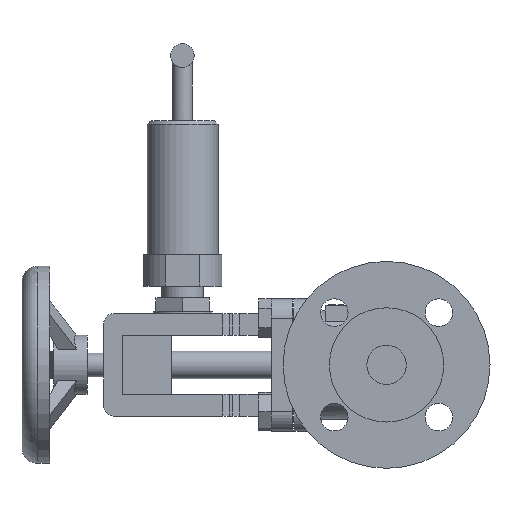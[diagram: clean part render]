
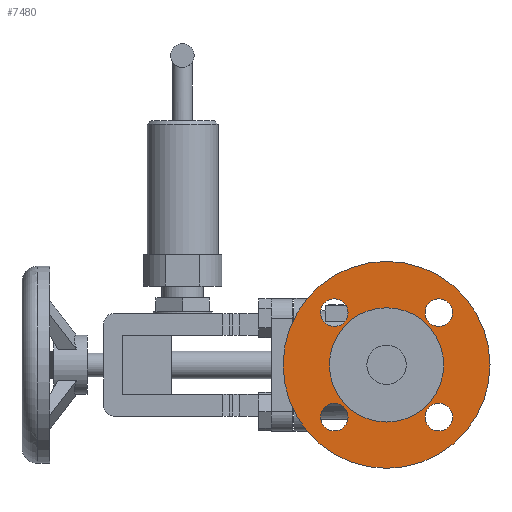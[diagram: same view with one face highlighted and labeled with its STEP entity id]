
A CAD part, left-side view. The second image highlights one B-rep face of the part: STEP entity #7480.
In plain terms, the highlighted planar face has unit normal (-1, 0, 0).
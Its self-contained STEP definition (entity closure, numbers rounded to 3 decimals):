
#339=PLANE('',#7995);
#396=FACE_BOUND('',#1360,.T.);
#397=FACE_BOUND('',#1361,.T.);
#398=FACE_BOUND('',#1362,.T.);
#399=FACE_BOUND('',#1363,.T.);
#400=FACE_BOUND('',#1364,.T.);
#929=FACE_OUTER_BOUND('',#1359,.T.);
#1359=EDGE_LOOP('',(#6580));
#1360=EDGE_LOOP('',(#6581));
#1361=EDGE_LOOP('',(#6582));
#1362=EDGE_LOOP('',(#6583));
#1363=EDGE_LOOP('',(#6584));
#1364=EDGE_LOOP('',(#6585));
#2903=CIRCLE('',#7922,52.5);
#2906=CIRCLE('',#7926,7.);
#2908=CIRCLE('',#7929,7.);
#2910=CIRCLE('',#7932,7.);
#2912=CIRCLE('',#7935,7.);
#2913=CIRCLE('',#7937,29.);
#3543=VERTEX_POINT('',#12769);
#3546=VERTEX_POINT('',#12777);
#3548=VERTEX_POINT('',#12783);
#3550=VERTEX_POINT('',#12789);
#3552=VERTEX_POINT('',#12795);
#3553=VERTEX_POINT('',#12799);
#4509=EDGE_CURVE('',#3543,#3543,#2903,.T.);
#4514=EDGE_CURVE('',#3546,#3546,#2906,.T.);
#4517=EDGE_CURVE('',#3548,#3548,#2908,.T.);
#4520=EDGE_CURVE('',#3550,#3550,#2910,.T.);
#4523=EDGE_CURVE('',#3552,#3552,#2912,.T.);
#4524=EDGE_CURVE('',#3553,#3553,#2913,.T.);
#6580=ORIENTED_EDGE('',*,*,#4509,.F.);
#6581=ORIENTED_EDGE('',*,*,#4517,.F.);
#6582=ORIENTED_EDGE('',*,*,#4520,.F.);
#6583=ORIENTED_EDGE('',*,*,#4523,.F.);
#6584=ORIENTED_EDGE('',*,*,#4514,.F.);
#6585=ORIENTED_EDGE('',*,*,#4524,.F.);
#7480=ADVANCED_FACE('',(#929,#396,#397,#398,#399,#400),#339,.F.);
#7922=AXIS2_PLACEMENT_3D('',#12770,#9431,#9432);
#7926=AXIS2_PLACEMENT_3D('',#12779,#9441,#9442);
#7929=AXIS2_PLACEMENT_3D('',#12785,#9448,#9449);
#7932=AXIS2_PLACEMENT_3D('',#12791,#9455,#9456);
#7935=AXIS2_PLACEMENT_3D('',#12797,#9462,#9463);
#7937=AXIS2_PLACEMENT_3D('',#12800,#9466,#9467);
#7995=AXIS2_PLACEMENT_3D('',#12966,#9650,#9651);
#9431=DIRECTION('center_axis',(1.,0.,0.));
#9432=DIRECTION('ref_axis',(0.,0.,-1.));
#9441=DIRECTION('center_axis',(-1.,0.,0.));
#9442=DIRECTION('ref_axis',(0.,0.,-1.));
#9448=DIRECTION('center_axis',(-1.,0.,0.));
#9449=DIRECTION('ref_axis',(0.,0.,-1.));
#9455=DIRECTION('center_axis',(-1.,0.,0.));
#9456=DIRECTION('ref_axis',(0.,0.,-1.));
#9462=DIRECTION('center_axis',(-1.,0.,0.));
#9463=DIRECTION('ref_axis',(0.,0.,-1.));
#9466=DIRECTION('center_axis',(-1.,0.,0.));
#9467=DIRECTION('ref_axis',(0.,1.,0.));
#9650=DIRECTION('center_axis',(1.,0.,0.));
#9651=DIRECTION('ref_axis',(0.,0.,-1.));
#12769=CARTESIAN_POINT('',(-80.685,-59.39,-2.75));
#12770=CARTESIAN_POINT('Origin',(-80.685,-59.39,-55.25));
#12777=CARTESIAN_POINT('',(-80.685,-32.873,-74.767));
#12779=CARTESIAN_POINT('Origin',(-80.685,-32.873,-81.767));
#12783=CARTESIAN_POINT('',(-80.685,-85.906,-74.767));
#12785=CARTESIAN_POINT('Origin',(-80.685,-85.906,-81.767));
#12789=CARTESIAN_POINT('',(-80.685,-85.906,-21.733));
#12791=CARTESIAN_POINT('Origin',(-80.685,-85.906,-28.733));
#12795=CARTESIAN_POINT('',(-80.685,-32.873,-21.733));
#12797=CARTESIAN_POINT('Origin',(-80.685,-32.873,-28.733));
#12799=CARTESIAN_POINT('',(-80.685,-88.39,-55.25));
#12800=CARTESIAN_POINT('Origin',(-80.685,-59.39,-55.25));
#12966=CARTESIAN_POINT('Origin',(-80.685,-18.64,-55.25));
